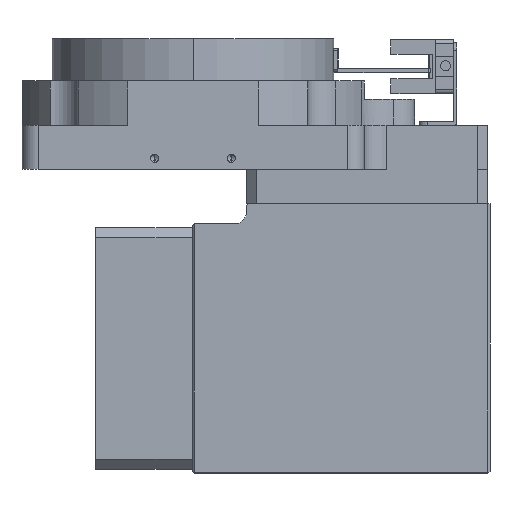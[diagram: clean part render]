
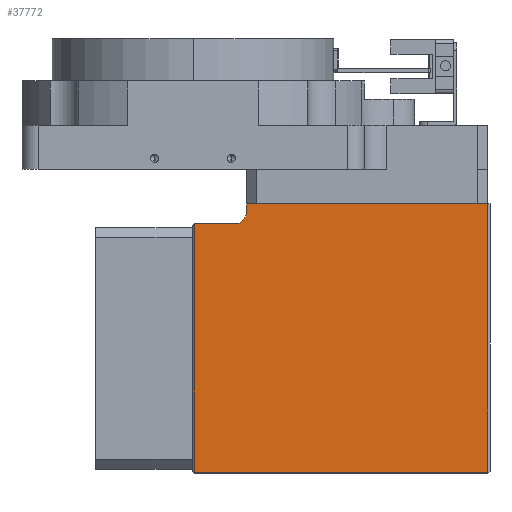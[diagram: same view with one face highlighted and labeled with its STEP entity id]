
A CAD part, left-side view. The second image highlights one B-rep face of the part: STEP entity #37772.
In plain terms, the highlighted planar face has unit normal (-1, 0, 0).
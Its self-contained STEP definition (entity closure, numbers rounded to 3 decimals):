
#1813 = ORIENTED_EDGE ( 'NONE', *, *, #22839, .T. ) ;
#2214 = VECTOR ( 'NONE', #48462, 1000. ) ;
#3038 = CARTESIAN_POINT ( 'NONE',  ( -34.628, -60.467, 22.707 ) ) ;
#3079 = DIRECTION ( 'NONE',  ( 0., -1., 0. ) ) ;
#3647 = VERTEX_POINT ( 'NONE', #4282 ) ;
#4282 = CARTESIAN_POINT ( 'NONE',  ( -34.628, -60.467, -69.45 ) ) ;
#4761 = ORIENTED_EDGE ( 'NONE', *, *, #21584, .T. ) ;
#6963 = DIRECTION ( 'NONE',  ( 0., 0., -1. ) ) ;
#7471 = DIRECTION ( 'NONE',  ( 0., 0., 1. ) ) ;
#7624 = VERTEX_POINT ( 'NONE', #22486 ) ;
#8211 = FACE_OUTER_BOUND ( 'NONE', #22621, .T. ) ;
#8811 = CARTESIAN_POINT ( 'NONE',  ( -34.628, -0.967, -2.75 ) ) ;
#10907 = CIRCLE ( 'NONE', #11738, 3. ) ;
#11646 = EDGE_CURVE ( 'NONE', #7624, #42781, #10907, .T. ) ;
#11738 = AXIS2_PLACEMENT_3D ( 'NONE', #49782, #50544, #6963 ) ;
#12602 = ORIENTED_EDGE ( 'NONE', *, *, #23229, .T. ) ;
#13411 = EDGE_CURVE ( 'NONE', #27156, #3647, #14063, .T. ) ;
#14063 = LINE ( 'NONE', #29999, #49943 ) ;
#14132 = CARTESIAN_POINT ( 'NONE',  ( -34.628, -60.467, -2.75 ) ) ;
#14367 = VERTEX_POINT ( 'NONE', #40068 ) ;
#14815 = CARTESIAN_POINT ( 'NONE',  ( -34.628, -0.967, -2.75 ) ) ;
#15529 = DIRECTION ( 'NONE',  ( 0., 0., -1. ) ) ;
#18822 = DIRECTION ( 'NONE',  ( 0., 1., 0. ) ) ;
#19853 = ORIENTED_EDGE ( 'NONE', *, *, #32329, .T. ) ;
#20601 = VECTOR ( 'NONE', #18822, 1000. ) ;
#20861 = LINE ( 'NONE', #28428, #21536 ) ;
#21456 = VECTOR ( 'NONE', #30843, 1000. ) ;
#21536 = VECTOR ( 'NONE', #23995, 1000. ) ;
#21584 = EDGE_CURVE ( 'NONE', #42064, #7624, #20861, .T. ) ;
#22473 = CARTESIAN_POINT ( 'NONE',  ( -34.628, 13.033, -7.75 ) ) ;
#22486 = CARTESIAN_POINT ( 'NONE',  ( -34.628, -0.467, -4.75 ) ) ;
#22621 = EDGE_LOOP ( 'NONE', ( #19853, #33553, #39744, #22696, #1813, #12602, #4761, #25330 ) ) ;
#22696 = ORIENTED_EDGE ( 'NONE', *, *, #32709, .T. ) ;
#22839 = EDGE_CURVE ( 'NONE', #39403, #36687, #41863, .T. ) ;
#23229 = EDGE_CURVE ( 'NONE', #36687, #42064, #32831, .T. ) ;
#23230 = LINE ( 'NONE', #51426, #21456 ) ;
#23995 = DIRECTION ( 'NONE',  ( 0., 0., -1. ) ) ;
#25330 = ORIENTED_EDGE ( 'NONE', *, *, #11646, .T. ) ;
#27156 = VERTEX_POINT ( 'NONE', #37522 ) ;
#28428 = CARTESIAN_POINT ( 'NONE',  ( -34.628, -0.467, 2.25 ) ) ;
#28866 = AXIS2_PLACEMENT_3D ( 'NONE', #38741, #35341, #15529 ) ;
#29999 = CARTESIAN_POINT ( 'NONE',  ( -34.628, -62.467, -69.45 ) ) ;
#30843 = DIRECTION ( 'NONE',  ( 0., 0., -1. ) ) ;
#30871 = EDGE_CURVE ( 'NONE', #14367, #27156, #23230, .T. ) ;
#31974 = VECTOR ( 'NONE', #7471, 1000. ) ;
#32329 = EDGE_CURVE ( 'NONE', #42781, #14367, #46469, .T. ) ;
#32709 = EDGE_CURVE ( 'NONE', #3647, #39403, #50257, .T. ) ;
#32831 = LINE ( 'NONE', #8811, #2214 ) ;
#33553 = ORIENTED_EDGE ( 'NONE', *, *, #30871, .T. ) ;
#34837 = PLANE ( 'NONE',  #28866 ) ;
#35341 = DIRECTION ( 'NONE',  ( 1., 0., 0. ) ) ;
#36687 = VERTEX_POINT ( 'NONE', #14815 ) ;
#37173 = VECTOR ( 'NONE', #41612, 1000. ) ;
#37446 = CARTESIAN_POINT ( 'NONE',  ( -34.628, 4.533, -2.75 ) ) ;
#37522 = CARTESIAN_POINT ( 'NONE',  ( -34.628, 12.533, -69.45 ) ) ;
#37772 = ADVANCED_FACE ( 'NONE', ( #8211 ), #34837, .F. ) ;
#38741 = CARTESIAN_POINT ( 'NONE',  ( -34.628, -73.967, 22.707 ) ) ;
#39403 = VERTEX_POINT ( 'NONE', #14132 ) ;
#39744 = ORIENTED_EDGE ( 'NONE', *, *, #13411, .T. ) ;
#40068 = CARTESIAN_POINT ( 'NONE',  ( -34.628, 12.533, -7.75 ) ) ;
#41612 = DIRECTION ( 'NONE',  ( 0., 1., 0. ) ) ;
#41863 = LINE ( 'NONE', #37446, #37173 ) ;
#42064 = VERTEX_POINT ( 'NONE', #44927 ) ;
#42781 = VERTEX_POINT ( 'NONE', #43777 ) ;
#43777 = CARTESIAN_POINT ( 'NONE',  ( -34.628, 2.533, -7.75 ) ) ;
#44927 = CARTESIAN_POINT ( 'NONE',  ( -34.628, -0.467, -3.25 ) ) ;
#46469 = LINE ( 'NONE', #22473, #20601 ) ;
#48462 = DIRECTION ( 'NONE',  ( 0., 0.707, -0.707 ) ) ;
#49782 = CARTESIAN_POINT ( 'NONE',  ( -34.628, 2.533, -4.75 ) ) ;
#49943 = VECTOR ( 'NONE', #3079, 1000. ) ;
#50257 = LINE ( 'NONE', #3038, #31974 ) ;
#50544 = DIRECTION ( 'NONE',  ( 1., 0., 0. ) ) ;
#51426 = CARTESIAN_POINT ( 'NONE',  ( -34.628, 12.533, -69.25 ) ) ;
